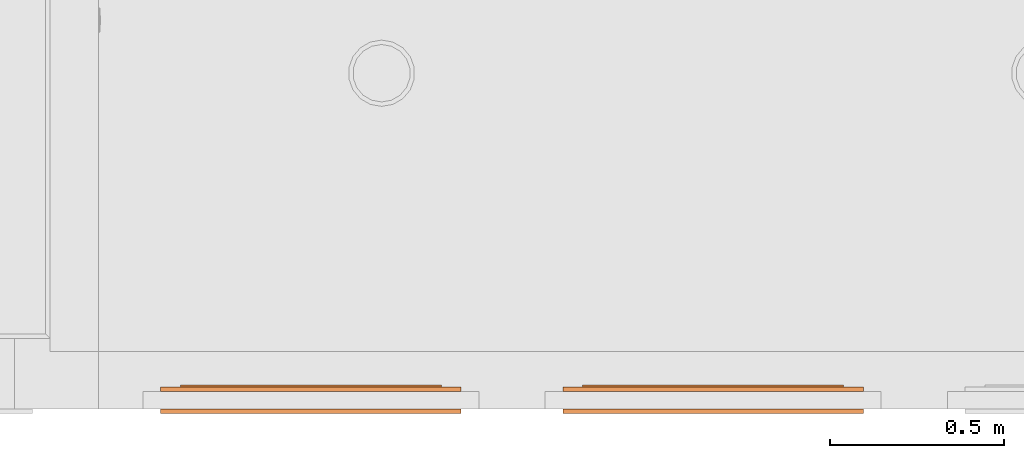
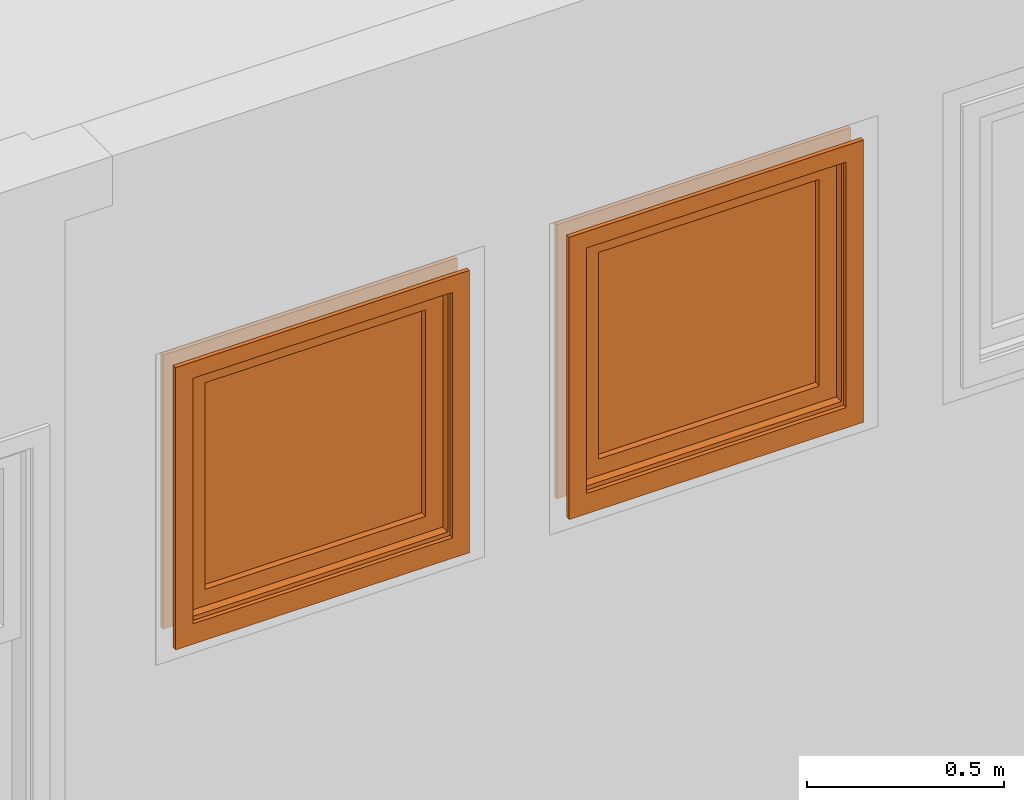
# One storey, part 67 of 103: 2 proxies.
"""IFC2X3 building model written with IfcOpenShell, lengths in inches."""

from ifc_helpers import new_model, entity, si_unit, converted_unit, derived_unit, money_unit, direction, frame, origin_with_axes, place, context, subcontext, project, spatial, faceted_brep, source, transform, mapped, type_object, element, save


model = new_model("IFC2X3")

# Units and contexts
model_context = context("Model", 3, precision=0.00039370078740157, world=origin_with_axes(), true_north=direction((0.0, 1.0)))
plan_context = context("Plan", 3, precision=0.00039370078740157, world=origin_with_axes(), true_north=direction((0.0, 1.0)))
body_context = subcontext(model_context, "Body", "Model", "MODEL_VIEW")
ifc_project = project(units=[converted_unit("LENGTHUNIT", "INCH", entity("IfcPositiveLengthMeasure", 0.0254), si_unit("LENGTHUNIT", "METRE"), dimensions=[1, 0, 0, 0, 0, 0, 0]), converted_unit("AREAUNIT", "SQUARE_FOOT", entity("IfcPositiveLengthMeasure", 0.09290304), si_unit("AREAUNIT", "SQUARE_METRE"), dimensions=[2, 0, 0, 0, 0, 0, 0]), si_unit("PLANEANGLEUNIT", "RADIAN"), si_unit("SOLIDANGLEUNIT", "STERADIAN"), money_unit("USD"), converted_unit("TIMEUNIT", "Year", entity("IfcTimeMeasure", 31557600.0), si_unit("TIMEUNIT", "SECOND"), dimensions=[0, 0, 1, 0, 0, 0, 0]), si_unit("MASSUNIT", "GRAM", prefix="KILO"), si_unit("THERMODYNAMICTEMPERATUREUNIT", "DEGREE_CELSIUS"), si_unit("LUMINOUSINTENSITYUNIT", "LUMEN"), si_unit("ENERGYUNIT", "JOULE", prefix="MEGA"), derived_unit("SPECIFICHEATCAPACITYUNIT", [(si_unit("ENERGYUNIT", "JOULE"), 1), (si_unit("MASSUNIT", "GRAM", prefix="KILO"), -1), (si_unit("THERMODYNAMICTEMPERATUREUNIT", "KELVIN"), -1)])], contexts=[model_context, plan_context])

# Site, building, storey
site_placement = place(None, origin_with_axes())
site = spatial("IfcSite", under=ifc_project, at=site_placement, Name="Site", CompositionType="ELEMENT")
building_placement = place(site_placement, origin_with_axes())
building = spatial("IfcBuilding", under=site, at=building_placement, Name="Building", CompositionType="ELEMENT")
storey_placement = place(building_placement, frame((0.0, 0.0, 127.9999999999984), z_axis=(0.0, 0.0, 1.0), x_axis=(1.0, 0.0, 0.0)))
storey = spatial("IfcBuildingStorey", under=building, at=storey_placement, Name="Second Floor", CompositionType="ELEMENT", Elevation=128.0)

# Proxies
building_element_proxy_type = type_object("IfcBuildingElementProxyType", Name="W1 Casement", PredefinedType="NOTDEFINED")
shared_shape = source(origin_with_axes(), body_context, "Body", "Brep", [
    faceted_brep([(16.99999999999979, 0.4999999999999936, -2.49999999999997), (16.99999999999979, 0.0, -2.49999999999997), (14.99999999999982, 0.0, 0.0), (14.99999999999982, 0.4999999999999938, 0.0), (16.99999999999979, 0.4999999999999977, 31.99999999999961), (16.99999999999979, 0.0, 31.99999999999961), (14.99999999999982, 0.0, 29.99999999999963), (14.99999999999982, 0.4999999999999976, 29.99999999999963)], [[[0, 1, 2, 3]], [[4, 5, 1, 0]], [[1, 5, 6, 2]], [[3, 2, 6, 7]], [[0, 3, 7, 4]], [[7, 6, 5, 4]]]),
    faceted_brep([(-16.99999999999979, 0.4999999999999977, 31.99999999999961), (-16.99999999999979, 0.0, 31.99999999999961), (-14.99999999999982, 0.0, 29.99999999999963), (-14.99999999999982, 0.4999999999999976, 29.99999999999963), (-16.99999999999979, 0.4999999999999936, -2.49999999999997), (-16.99999999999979, 0.0, -2.49999999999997), (-14.99999999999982, 0.0, 0.0), (-14.99999999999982, 0.4999999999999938, 0.0)], [[[0, 1, 2, 3]], [[4, 5, 1, 0]], [[1, 5, 6, 2]], [[3, 2, 6, 7]], [[0, 3, 7, 4]], [[7, 6, 5, 4]]]),
    faceted_brep([(-16.99999999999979, 0.4999999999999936, -2.49999999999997), (-16.99999999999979, 0.0, -2.49999999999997), (-14.99999999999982, 0.0, 0.0), (-14.99999999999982, 0.4999999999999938, 0.0), (16.99999999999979, 0.4999999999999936, -2.49999999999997), (16.99999999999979, 0.0, -2.49999999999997), (14.99999999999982, 0.0, 0.0), (14.99999999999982, 0.4999999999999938, 0.0)], [[[0, 1, 2, 3]], [[4, 5, 1, 0]], [[1, 5, 6, 2]], [[3, 2, 6, 7]], [[0, 3, 7, 4]], [[7, 6, 5, 4]]]),
    faceted_brep([(16.99999999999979, 0.4999999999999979, 31.99999999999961), (16.99999999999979, 0.0, 31.99999999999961), (14.99999999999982, 0.0, 29.99999999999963), (14.99999999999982, 0.4999999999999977, 29.99999999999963), (-16.99999999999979, 0.4999999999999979, 31.99999999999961), (-16.99999999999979, 0.0, 31.99999999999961), (-14.99999999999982, 0.0, 29.99999999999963), (-14.99999999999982, 0.4999999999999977, 29.99999999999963)], [[[0, 1, 2, 3]], [[4, 5, 1, 0]], [[1, 5, 6, 2]], [[3, 2, 6, 7]], [[0, 3, 7, 4]], [[7, 6, 5, 4]]]),
    faceted_brep([(16.99999999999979, -2.499999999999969, -1.499999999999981), (14.99999999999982, -2.499999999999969, 0.4999999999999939), (14.99999999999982, -1.999999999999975, 0.4999999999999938), (16.99999999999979, -1.999999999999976, -1.499999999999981), (16.99999999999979, -2.499999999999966, 31.99999999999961), (14.99999999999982, -2.499999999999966, 29.99999999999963), (14.99999999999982, -1.999999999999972, 29.99999999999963), (16.99999999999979, -1.999999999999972, 31.99999999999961)], [[[0, 1, 2, 3]], [[0, 4, 5, 1]], [[1, 5, 6, 2]], [[3, 2, 6, 7]], [[4, 0, 3, 7]], [[5, 4, 7, 6]]]),
    faceted_brep([(-16.99999999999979, -2.499999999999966, 31.99999999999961), (-14.99999999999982, -2.499999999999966, 29.99999999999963), (-14.99999999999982, -1.999999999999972, 29.99999999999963), (-16.99999999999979, -1.999999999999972, 31.99999999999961), (-16.99999999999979, -2.499999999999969, -1.499999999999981), (-14.99999999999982, -2.499999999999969, 0.4999999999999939), (-14.99999999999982, -1.999999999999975, 0.4999999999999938), (-16.99999999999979, -1.999999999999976, -1.499999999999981)], [[[0, 1, 2, 3]], [[0, 4, 5, 1]], [[1, 5, 6, 2]], [[3, 2, 6, 7]], [[4, 0, 3, 7]], [[5, 4, 7, 6]]]),
    faceted_brep([(-16.99999999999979, -2.499999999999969, -1.499999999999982), (-14.99999999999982, -2.499999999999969, 0.4999999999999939), (-14.99999999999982, -1.999999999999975, 0.4999999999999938), (-16.99999999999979, -1.999999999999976, -1.499999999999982), (16.99999999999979, -2.499999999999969, -1.499999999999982), (14.99999999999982, -2.499999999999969, 0.4999999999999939), (14.99999999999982, -1.999999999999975, 0.4999999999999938), (16.99999999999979, -1.999999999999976, -1.499999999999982)], [[[0, 1, 2, 3]], [[0, 4, 5, 1]], [[1, 5, 6, 2]], [[3, 2, 6, 7]], [[4, 0, 3, 7]], [[5, 4, 7, 6]]]),
    faceted_brep([(16.99999999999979, -2.499999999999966, 31.99999999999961), (14.99999999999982, -2.499999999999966, 29.99999999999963), (14.99999999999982, -1.999999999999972, 29.99999999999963), (16.99999999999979, -1.999999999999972, 31.99999999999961), (-16.99999999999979, -2.499999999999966, 31.99999999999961), (-14.99999999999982, -2.499999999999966, 29.99999999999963), (-14.99999999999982, -1.999999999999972, 29.99999999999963), (-16.99999999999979, -1.999999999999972, 31.99999999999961)], [[[0, 1, 2, 3]], [[0, 4, 5, 1]], [[1, 5, 6, 2]], [[3, 2, 6, 7]], [[4, 0, 3, 7]], [[5, 4, 7, 6]]]),
    faceted_brep([(14.74999999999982, 0.0, 0.7539370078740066), (14.74999999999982, 0.0, 29.49606299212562), (14.99999999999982, 0.0, 29.49606299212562), (14.99999999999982, 0.0, 0.7539370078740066), (14.74999999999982, -1.999999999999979, 29.49606299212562), (14.74999999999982, -1.999999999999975, 0.7539370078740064), (14.99999999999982, -1.999999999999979, 29.49606299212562), (14.99999999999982, -1.999999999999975, 0.7539370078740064)], [[[0, 1, 2, 3]], [[4, 1, 0, 5]], [[1, 4, 6, 2]], [[2, 6, 7, 3]], [[5, 0, 3, 7]], [[4, 5, 7, 6]]]),
    faceted_brep([(-14.74999999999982, -1.999999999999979, 29.49606299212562), (-14.74999999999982, 0.0, 29.49606299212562), (-14.99999999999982, 0.0, 29.49606299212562), (-14.99999999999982, -1.999999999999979, 29.49606299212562), (-14.74999999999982, 0.0, 0.7539370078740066), (-14.74999999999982, -1.999999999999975, 0.7539370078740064), (-14.99999999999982, 0.0, 0.7539370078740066), (-14.99999999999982, -1.999999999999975, 0.7539370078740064)], [[[0, 1, 2, 3]], [[4, 1, 0, 5]], [[1, 4, 6, 2]], [[6, 7, 3, 2]], [[5, 0, 3, 7]], [[4, 5, 7, 6]]]),
    faceted_brep([(-14.74999999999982, -1.999999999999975, 0.7539370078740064), (-14.74999999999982, 0.0, 0.7539370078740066), (-14.99999999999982, 0.0, 0.7539370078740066), (-14.99999999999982, -1.999999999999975, 0.7539370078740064), (-14.74999999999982, 0.0, 0.4999999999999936), (-14.74999999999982, -1.999999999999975, 0.4999999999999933), (14.74999999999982, 0.0, 0.4999999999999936), (14.74999999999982, 0.0, 0.7539370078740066), (14.99999999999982, 0.0, 0.7539370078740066), (14.99999999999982, 0.0, 0.0), (-14.99999999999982, 0.0, 0.0), (-14.99999999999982, -1.999999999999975, 0.0), (14.99999999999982, -1.999999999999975, 0.0), (14.99999999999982, -1.999999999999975, 0.7539370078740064), (14.74999999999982, -1.999999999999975, 0.7539370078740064), (14.74999999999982, -1.999999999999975, 0.4999999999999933)], [[[0, 1, 2, 3]], [[4, 1, 0, 5]], [[6, 7, 8, 9, 10, 2, 1, 4]], [[10, 11, 3, 2]], [[5, 0, 3, 11, 12, 13, 14, 15]], [[6, 4, 5, 15]], [[14, 7, 6, 15]], [[7, 14, 13, 8]], [[8, 13, 12, 9]], [[9, 12, 11, 10]]]),
    faceted_brep([(14.74999999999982, 0.0, 29.49606299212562), (14.74999999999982, 0.0, 29.74999999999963), (-14.74999999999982, 0.0, 29.74999999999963), (-14.74999999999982, 0.0, 29.49606299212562), (-14.99999999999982, 0.0, 29.49606299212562), (-14.99999999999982, 0.0, 29.99999999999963), (14.99999999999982, 0.0, 29.99999999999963), (14.99999999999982, 0.0, 29.49606299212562), (14.74999999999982, -1.999999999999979, 29.49606299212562), (14.74999999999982, -1.999999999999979, 29.74999999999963), (-14.74999999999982, -1.999999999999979, 29.74999999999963), (-14.74999999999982, -1.999999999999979, 29.49606299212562), (-14.99999999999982, -1.999999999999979, 29.49606299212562), (-14.99999999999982, -1.999999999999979, 29.99999999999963), (14.99999999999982, -1.999999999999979, 29.99999999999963), (14.99999999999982, -1.999999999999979, 29.49606299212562)], [[[0, 1, 2, 3, 4, 5, 6, 7]], [[1, 0, 8, 9]], [[2, 1, 9, 10]], [[3, 2, 10, 11]], [[3, 11, 12, 4]], [[4, 12, 13, 5]], [[5, 13, 14, 6]], [[6, 14, 15, 7]], [[8, 0, 7, 15]], [[9, 8, 15, 14, 13, 12, 11, 10]]]),
    faceted_brep([(12.74999999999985, -2.749999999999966, 2.499999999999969), (12.74999999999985, -2.749999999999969, 27.74999999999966), (12.74999999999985, -1.874999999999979, 27.74999999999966), (12.74999999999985, -1.874999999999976, 2.499999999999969), (14.74999999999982, -2.749999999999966, 2.499999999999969), (14.74999999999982, -2.749999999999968, 27.74999999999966), (14.74999999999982, -1.874999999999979, 27.74999999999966), (14.74999999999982, -1.874999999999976, 2.499999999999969)], [[[0, 1, 2, 3]], [[0, 4, 5, 1]], [[1, 5, 6, 2]], [[3, 2, 6, 7]], [[4, 0, 3, 7]], [[5, 4, 7, 6]]]),
    faceted_brep([(-14.74999999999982, -2.749999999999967, 2.499999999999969), (-14.74999999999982, -2.749999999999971, 27.74999999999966), (-14.74999999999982, -1.874999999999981, 27.74999999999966), (-14.74999999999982, -1.874999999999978, 2.499999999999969), (-12.74999999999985, -2.749999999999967, 2.499999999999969), (-12.74999999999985, -2.749999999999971, 27.74999999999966), (-12.74999999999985, -1.874999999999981, 27.74999999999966), (-12.74999999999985, -1.874999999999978, 2.499999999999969)], [[[0, 1, 2, 3]], [[0, 4, 5, 1]], [[1, 5, 6, 2]], [[3, 2, 6, 7]], [[4, 0, 3, 7]], [[5, 4, 7, 6]]]),
    faceted_brep([(-14.74999999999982, -2.749999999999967, 0.4999999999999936), (-14.74999999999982, -2.749999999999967, 2.499999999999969), (-14.74999999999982, -1.874999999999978, 2.499999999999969), (-14.74999999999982, -1.874999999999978, 0.4999999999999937), (14.74999999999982, -2.749999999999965, 0.4999999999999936), (14.74999999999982, -2.749999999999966, 2.499999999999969), (12.74999999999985, -2.749999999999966, 2.499999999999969), (0.9999999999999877, -2.749999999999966, 2.499999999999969), (-0.9999999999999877, -2.749999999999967, 2.499999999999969), (-12.74999999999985, -2.749999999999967, 2.499999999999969), (-12.74999999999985, -1.874999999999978, 2.499999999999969), (-0.9999999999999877, -1.874999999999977, 2.499999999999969), (0.9999999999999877, -1.874999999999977, 2.499999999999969), (12.74999999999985, -1.874999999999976, 2.499999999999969), (14.74999999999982, -1.874999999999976, 2.499999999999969), (14.74999999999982, -1.874999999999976, 0.4999999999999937)], [[[0, 1, 2, 3]], [[0, 4, 5, 6, 7, 8, 9, 1]], [[1, 9, 10, 2]], [[3, 2, 10, 11, 12, 13, 14, 15]], [[4, 0, 3, 15]], [[5, 4, 15, 14]], [[6, 5, 14, 13]], [[7, 6, 13, 12]], [[8, 7, 12, 11]], [[9, 8, 11, 10]]]),
    faceted_brep([(14.74999999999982, -2.749999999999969, 29.74999999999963), (14.74999999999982, -2.749999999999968, 27.74999999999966), (14.74999999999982, -1.874999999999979, 27.74999999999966), (14.74999999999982, -1.874999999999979, 29.74999999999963), (-14.74999999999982, -2.749999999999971, 29.74999999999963), (-14.74999999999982, -2.749999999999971, 27.74999999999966), (-12.74999999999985, -2.749999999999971, 27.74999999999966), (-0.9999999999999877, -2.749999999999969, 27.74999999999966), (0.9999999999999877, -2.749999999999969, 27.74999999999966), (12.74999999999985, -2.749999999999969, 27.74999999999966), (12.74999999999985, -1.874999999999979, 27.74999999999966), (0.9999999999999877, -1.87499999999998, 27.74999999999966), (-0.9999999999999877, -1.87499999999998, 27.74999999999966), (-12.74999999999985, -1.874999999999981, 27.74999999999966), (-14.74999999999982, -1.874999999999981, 27.74999999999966), (-14.74999999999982, -1.874999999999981, 29.74999999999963)], [[[0, 1, 2, 3]], [[0, 4, 5, 6, 7, 8, 9, 1]], [[1, 9, 10, 2]], [[3, 2, 10, 11, 12, 13, 14, 15]], [[4, 0, 3, 15]], [[5, 4, 15, 14]], [[6, 5, 14, 13]], [[7, 6, 13, 12]], [[8, 7, 12, 11]], [[9, 8, 11, 10]]]),
    faceted_brep([(12.74999999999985, -1.874999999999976, 2.499999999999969), (12.74999999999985, -1.874999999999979, 27.74999999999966), (12.74999999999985, -0.9999999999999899, 27.74999999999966), (12.74999999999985, -0.9999999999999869, 2.499999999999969), (14.74999999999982, -1.874999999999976, 2.499999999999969), (14.74999999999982, -1.874999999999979, 27.74999999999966), (14.74999999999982, -0.9999999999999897, 27.74999999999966), (14.74999999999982, -0.9999999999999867, 2.499999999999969)], [[[0, 1, 2, 3]], [[0, 4, 5, 1]], [[1, 5, 6, 2]], [[3, 2, 6, 7]], [[4, 0, 3, 7]], [[5, 4, 7, 6]]]),
    faceted_brep([(-14.74999999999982, -1.874999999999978, 2.499999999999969), (-14.74999999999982, -1.874999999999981, 27.74999999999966), (-14.74999999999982, -0.9999999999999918, 27.74999999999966), (-14.74999999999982, -0.9999999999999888, 2.499999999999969), (-12.74999999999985, -1.874999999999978, 2.499999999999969), (-12.74999999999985, -1.874999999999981, 27.74999999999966), (-12.74999999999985, -0.9999999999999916, 27.74999999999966), (-12.74999999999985, -0.9999999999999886, 2.499999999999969)], [[[0, 1, 2, 3]], [[0, 4, 5, 1]], [[1, 5, 6, 2]], [[3, 2, 6, 7]], [[4, 0, 3, 7]], [[5, 4, 7, 6]]]),
    faceted_brep([(-14.74999999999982, -1.874999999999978, 0.4999999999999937), (-14.74999999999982, -1.874999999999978, 2.499999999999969), (-14.74999999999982, -0.9999999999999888, 2.499999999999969), (-14.74999999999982, -0.9999999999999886, 0.4999999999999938), (14.74999999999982, -1.874999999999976, 0.4999999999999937), (14.74999999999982, -1.874999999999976, 2.499999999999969), (12.74999999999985, -1.874999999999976, 2.499999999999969), (0.9999999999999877, -1.874999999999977, 2.499999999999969), (-0.9999999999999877, -1.874999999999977, 2.499999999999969), (-12.74999999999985, -1.874999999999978, 2.499999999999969), (-12.74999999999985, -0.9999999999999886, 2.499999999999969), (-0.9999999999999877, -0.9999999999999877, 2.499999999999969), (0.9999999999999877, -0.9999999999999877, 2.499999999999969), (12.74999999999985, -0.9999999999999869, 2.499999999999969), (14.74999999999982, -0.9999999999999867, 2.499999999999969), (14.74999999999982, -0.9999999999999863, 0.4999999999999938)], [[[0, 1, 2, 3]], [[0, 4, 5, 6, 7, 8, 9, 1]], [[1, 9, 10, 2]], [[3, 2, 10, 11, 12, 13, 14, 15]], [[4, 0, 3, 15]], [[5, 4, 15, 14]], [[6, 5, 14, 13]], [[7, 6, 13, 12]], [[8, 7, 12, 11]], [[9, 8, 11, 10]]]),
    faceted_brep([(14.74999999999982, -1.874999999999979, 29.74999999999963), (14.74999999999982, -1.874999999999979, 27.74999999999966), (14.74999999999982, -0.9999999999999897, 27.74999999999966), (14.74999999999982, -0.9999999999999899, 29.74999999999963), (-14.74999999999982, -1.874999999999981, 29.74999999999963), (-14.74999999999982, -1.874999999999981, 27.74999999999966), (-12.74999999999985, -1.874999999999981, 27.74999999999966), (-0.9999999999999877, -1.87499999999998, 27.74999999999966), (0.9999999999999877, -1.87499999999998, 27.74999999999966), (12.74999999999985, -1.874999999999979, 27.74999999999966), (12.74999999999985, -0.9999999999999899, 27.74999999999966), (0.9999999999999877, -0.9999999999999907, 27.74999999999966), (-0.9999999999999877, -0.9999999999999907, 27.74999999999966), (-12.74999999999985, -0.9999999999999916, 27.74999999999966), (-14.74999999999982, -0.9999999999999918, 27.74999999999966), (-14.74999999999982, -0.9999999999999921, 29.74999999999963)], [[[0, 1, 2, 3]], [[0, 4, 5, 6, 7, 8, 9, 1]], [[1, 9, 10, 2]], [[3, 2, 10, 11, 12, 13, 14, 15]], [[4, 0, 3, 15]], [[5, 4, 15, 14]], [[6, 5, 14, 13]], [[7, 6, 13, 12]], [[8, 7, 12, 11]], [[9, 8, 11, 10]]]),
    faceted_brep([(12.74999999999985, -1.999999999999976, 2.499999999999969), (-12.74999999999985, -1.999999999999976, 2.499999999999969), (-12.74999999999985, -1.749999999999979, 2.499999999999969), (12.74999999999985, -1.749999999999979, 2.499999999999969), (12.74999999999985, -1.999999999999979, 27.74999999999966), (-12.74999999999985, -1.999999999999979, 27.74999999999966), (-12.74999999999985, -1.749999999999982, 27.74999999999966), (12.74999999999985, -1.749999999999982, 27.74999999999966)], [[[0, 1, 2, 3]], [[0, 4, 5, 1]], [[1, 5, 6, 2]], [[3, 2, 6, 7]], [[4, 0, 3, 7]], [[5, 4, 7, 6]]]),
])
for number, where, z_axis, x_axis, name in (
    (1, (468.4999994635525, 1.999999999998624, 65.99999999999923), (0.0, 0.0, 1.0), (-1.0, 0.0, 0.0), "WD - 001"),
    (2, (422.999999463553, 1.999999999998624, 65.99999999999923), (0.0, 0.0, 1.0), (-1.0, 0.0, 0.0), "WD - 001"),
):
    element("IfcBuildingElementProxy", number, at=place(storey_placement, frame(where, z_axis=z_axis, x_axis=x_axis)), inside=storey, type_object=building_element_proxy_type, Name=name, context=body_context, shape_type="MappedRepresentation", body=[
        mapped(shared_shape, transform((14.99999999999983, 1.999999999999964, 0.0))),
    ])

save(model, "model.ifc")
